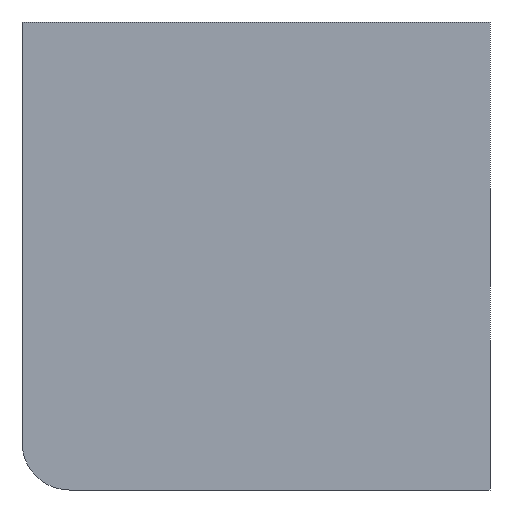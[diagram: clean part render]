
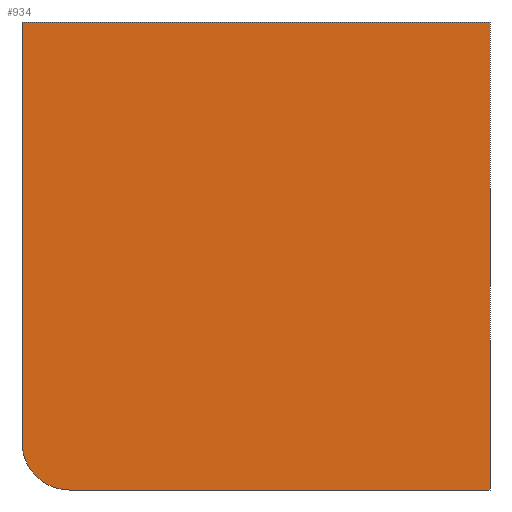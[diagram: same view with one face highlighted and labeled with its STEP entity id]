
A CAD part, front view. The second image highlights one B-rep face of the part: STEP entity #934.
In plain terms, the highlighted planar face has unit normal (0, -1, 0).
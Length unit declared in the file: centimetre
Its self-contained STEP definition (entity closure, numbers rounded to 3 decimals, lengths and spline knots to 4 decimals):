
#12 = EDGE_CURVE ( 'NONE', #595, #766, #538, .T. ) ;
#45 = LINE ( 'NONE', #162, #195 ) ;
#72 = DIRECTION ( 'NONE',  ( 1., 0., 0. ) ) ;
#135 = CARTESIAN_POINT ( 'NONE',  ( 1000., 0., 1000. ) ) ;
#154 = CARTESIAN_POINT ( 'NONE',  ( 0., 0., 0. ) ) ;
#162 = CARTESIAN_POINT ( 'NONE',  ( 0., 0., 1000. ) ) ;
#195 = VECTOR ( 'NONE', #855, 100. ) ;
#227 = CIRCLE ( 'NONE', #700, 101.4128 ) ;
#296 = DIRECTION ( 'NONE',  ( 0., 0., 1. ) ) ;
#299 = CARTESIAN_POINT ( 'NONE',  ( 101.4128, 0., 0. ) ) ;
#308 = FACE_OUTER_BOUND ( 'NONE', #487, .T. ) ;
#357 = ORIENTED_EDGE ( 'NONE', *, *, #979, .T. ) ;
#359 = DIRECTION ( 'NONE',  ( 0., 0., 1. ) ) ;
#437 = CARTESIAN_POINT ( 'NONE',  ( 0., 0., 1000. ) ) ;
#438 = ORIENTED_EDGE ( 'NONE', *, *, #1121, .T. ) ;
#487 = EDGE_LOOP ( 'NONE', ( #357, #438, #1573, #866, #1380 ) ) ;
#526 = CARTESIAN_POINT ( 'NONE',  ( 1000., 0., 1000. ) ) ;
#538 = LINE ( 'NONE', #135, #880 ) ;
#558 = DIRECTION ( 'NONE',  ( 0., 0., -1. ) ) ;
#580 = AXIS2_PLACEMENT_3D ( 'NONE', #437, #752, #296 ) ;
#595 = VERTEX_POINT ( 'NONE', #526 ) ;
#634 = EDGE_CURVE ( 'NONE', #1228, #595, #1794, .T. ) ;
#700 = AXIS2_PLACEMENT_3D ( 'NONE', #1076, #1629, #359 ) ;
#752 = DIRECTION ( 'NONE',  ( 0., 1., 0. ) ) ;
#766 = VERTEX_POINT ( 'NONE', #1785 ) ;
#787 = VERTEX_POINT ( 'NONE', #1387 ) ;
#849 = VECTOR ( 'NONE', #1288, 100. ) ;
#855 = DIRECTION ( 'NONE',  ( 0., 0., -1. ) ) ;
#866 = ORIENTED_EDGE ( 'NONE', *, *, #12, .F. ) ;
#880 = VECTOR ( 'NONE', #558, 100. ) ;
#934 = ADVANCED_FACE ( 'NONE', ( #308 ), #1167, .F. ) ;
#979 = EDGE_CURVE ( 'NONE', #1228, #787, #45, .T. ) ;
#1076 = CARTESIAN_POINT ( 'NONE',  ( 101.4128, 0., 101.4128 ) ) ;
#1121 = EDGE_CURVE ( 'NONE', #787, #1366, #227, .T. ) ;
#1167 = PLANE ( 'NONE',  #580 ) ;
#1228 = VERTEX_POINT ( 'NONE', #1402 ) ;
#1288 = DIRECTION ( 'NONE',  ( 1., 0., 0. ) ) ;
#1304 = LINE ( 'NONE', #154, #849 ) ;
#1361 = EDGE_CURVE ( 'NONE', #1366, #766, #1304, .T. ) ;
#1366 = VERTEX_POINT ( 'NONE', #299 ) ;
#1380 = ORIENTED_EDGE ( 'NONE', *, *, #634, .F. ) ;
#1387 = CARTESIAN_POINT ( 'NONE',  ( 0., 0., 101.4128 ) ) ;
#1402 = CARTESIAN_POINT ( 'NONE',  ( 0., 0., 1000. ) ) ;
#1573 = ORIENTED_EDGE ( 'NONE', *, *, #1361, .T. ) ;
#1629 = DIRECTION ( 'NONE',  ( 0., -1., 0. ) ) ;
#1630 = CARTESIAN_POINT ( 'NONE',  ( 0., 0., 1000. ) ) ;
#1785 = CARTESIAN_POINT ( 'NONE',  ( 1000., 0., 0. ) ) ;
#1794 = LINE ( 'NONE', #1630, #1835 ) ;
#1835 = VECTOR ( 'NONE', #72, 100. ) ;
